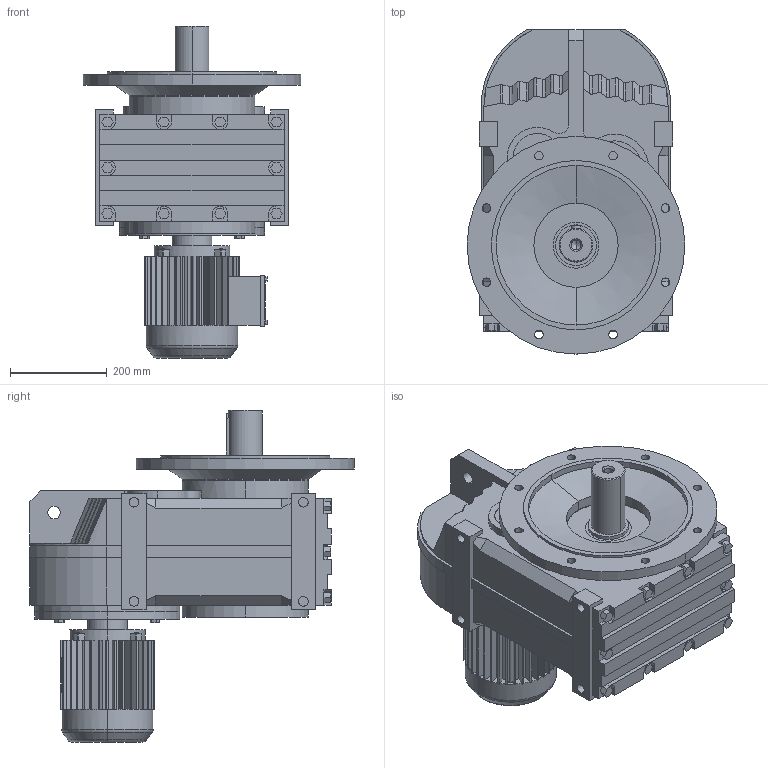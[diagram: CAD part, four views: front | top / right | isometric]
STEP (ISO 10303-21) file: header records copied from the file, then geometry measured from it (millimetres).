
FILE_DESCRIPTION(('Open CASCADE Model'),'2;1');
FILE_NAME('Open CASCADE Shape Model','2021-07-20T10:04:19',('Author'),( 'Open CASCADE'),'Open CASCADE STEP processor 6.3','Open CASCADE 6.3' ,'Unknown');
FILE_SCHEMA(('AUTOMOTIVE_DESIGN_CC2 { 1 2 10303 214 -1 1 5 4 }'));
Length unit declared in the file: millimetre
Products named in the file (5): 1_FF97-Y90S; FA27‵157_97.step; 萇儂_300_Y90S.step; す瑩妗陑粣F_97.step; 楊擘F_97.step
Assembly tree (4 placements, depth 2):
  1_FF97-Y90S
    FA27‵157_97.step
    萇儂_300_Y90S.step
    す瑩妗陑粣F_97.step
    楊擘F_97.step
Bounding box: 450 x 670 x 686 mm (x, y, z)
Volume: 62862059.4 mm3; surface area: 2123917.6 mm2
Topology: 4 solids, 4 shells, 826 faces, 2170 edges, 1408 vertices
Faces by surface type: plane 570, cylinder 224, bspline 16, cone 12, torus 4
Entity records: 55962 total; most frequent: CARTESIAN_POINT 14521, DIRECTION 7201, ORIENTED_EDGE 4336, PCURVE 4336, DEFINITIONAL_REPRESENTATION 4336, LINE 3959, VECTOR 3959, EDGE_CURVE 2168
